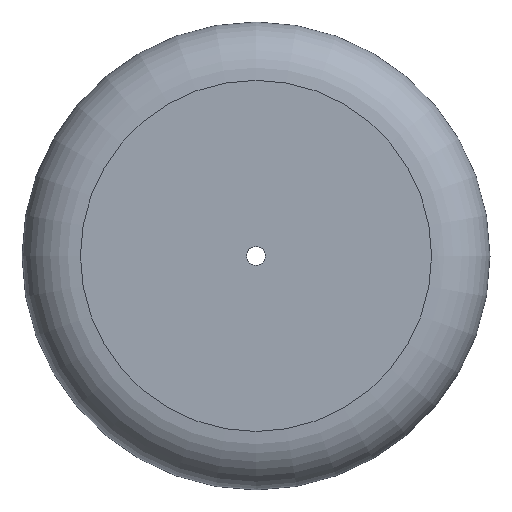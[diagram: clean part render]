
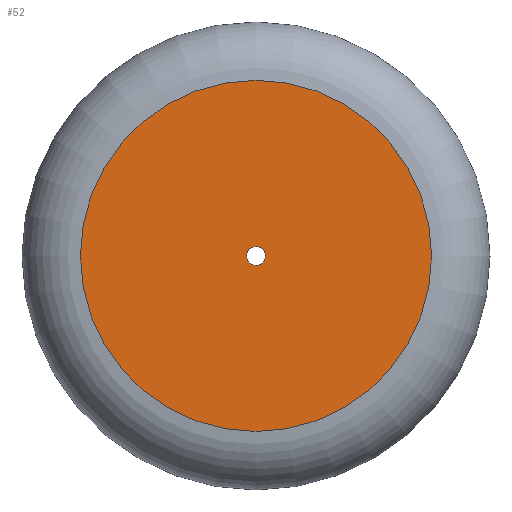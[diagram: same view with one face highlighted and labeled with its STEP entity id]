
A CAD part, top view. The second image highlights one B-rep face of the part: STEP entity #52.
In plain terms, the highlighted planar face has unit normal (0, 0, 1).
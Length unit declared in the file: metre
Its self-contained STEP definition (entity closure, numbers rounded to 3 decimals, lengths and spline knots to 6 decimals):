
#14=ORIENTED_EDGE('',*,*,#22,.F.);
#15=ORIENTED_EDGE('',*,*,#23,.T.);
#22=EDGE_CURVE('',#26,#26,#30,.T.);
#23=EDGE_CURVE('',#27,#27,#31,.T.);
#26=VERTEX_POINT('',#98);
#27=VERTEX_POINT('',#100);
#30=CIRCLE('',#70,0.004);
#31=CIRCLE('',#71,0.075);
#34=EDGE_LOOP('',(#14));
#35=EDGE_LOOP('',(#15));
#42=FACE_BOUND('',#34,.T.);
#43=FACE_BOUND('',#35,.T.);
#50=PLANE('',#69);
#52=ADVANCED_FACE('',(#42,#43),#50,.T.);
#69=AXIS2_PLACEMENT_3D('',#96,#79,#80);
#70=AXIS2_PLACEMENT_3D('',#97,#81,#82);
#71=AXIS2_PLACEMENT_3D('',#99,#83,#84);
#79=DIRECTION('',(0.,0.,1.));
#80=DIRECTION('',(1.,0.,0.));
#81=DIRECTION('',(0.,0.,1.));
#82=DIRECTION('',(1.,0.,0.));
#83=DIRECTION('',(0.,0.,1.));
#84=DIRECTION('',(1.,0.,0.));
#96=CARTESIAN_POINT('',(0.,0.,0.05));
#97=CARTESIAN_POINT('',(0.,0.,0.05));
#98=CARTESIAN_POINT('',(0.004,0.,0.05));
#99=CARTESIAN_POINT('',(0.,0.,0.05));
#100=CARTESIAN_POINT('',(0.075,0.,0.05));
